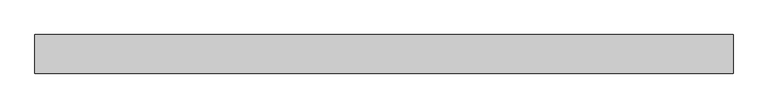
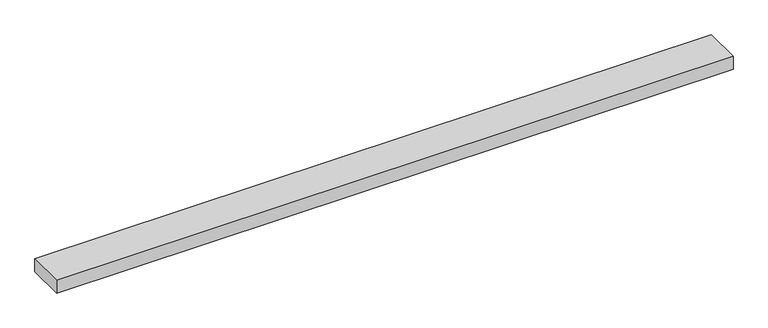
"""IFC4 building model written with IfcOpenShell, lengths in millimetres: proxy geometry, FOUNDATION^TABLE 7_POWER DRAWERS-KEEL SOLID."""

from ifc_helpers import new_model, si_unit, origin, origin_with_axes, place, context, project, spatial, polyline, outline, extrude, source, transform, mapped, element, save


def generic_models_4fed03f8(model_context):
    return source(origin(), model_context, "Body", "SweptSolid", [
        extrude(outline(polyline([(1606.55, 88.9), (1606.55, 0.0), (0.0, 0.0), (0.0, 88.9), (1606.55, 88.9)])), origin_with_axes(), (0.0, 0.0, 1.0), 31.75),
    ])


if __name__ == "__main__":
    model = new_model("IFC4")
    model_context = context("Model", 3, world=origin())
    ifc_project = project(units=[si_unit("LENGTHUNIT", "METRE", prefix="MILLI")], contexts=[model_context])
    site = spatial("IfcSite", under=ifc_project)
    building = spatial("IfcBuilding", under=site)
    placement = place(None, origin())
    generic_models_shape = generic_models_4fed03f8(model_context)
    element("IfcBuildingElementProxy", 1, Name="FOUNDATION^TABLE 7_POWER DRAWERS-KEEL SOLID", ObjectType="FOUNDATION^TABLE 7_POWER DRAWERS-KEEL SOLID", at=placement, inside=building, context=model_context, shape_type="MappedRepresentation", body=[
        mapped(generic_models_shape, transform((0.0, 0.0, 0.0), x_axis=(1.0, 0.0, 0.0), y_axis=(0.0, 1.0, 0.0), z_axis=(0.0, 0.0, 1.0))),
    ])
    save(model, "model.ifc")
